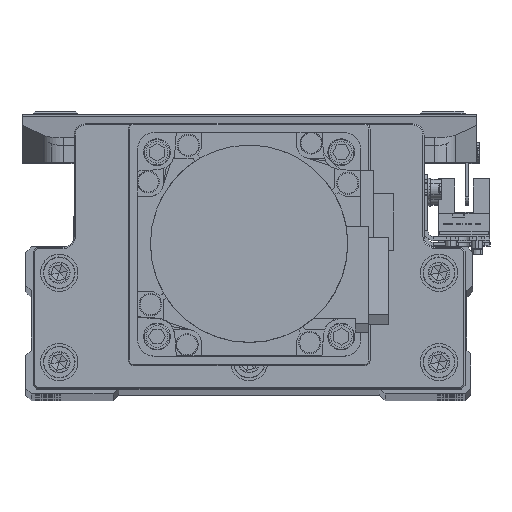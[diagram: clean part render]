
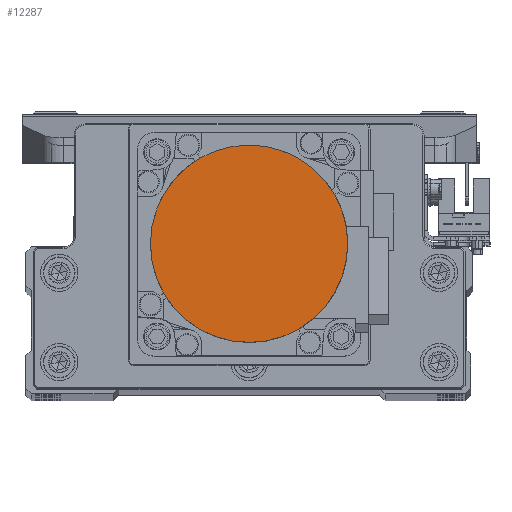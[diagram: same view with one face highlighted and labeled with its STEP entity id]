
A CAD part, top view. The second image highlights one B-rep face of the part: STEP entity #12287.
In plain terms, the highlighted planar face has unit normal (0, 0, 1) as drawn and (0, 0, -1) by its records, which use the part's own axes.
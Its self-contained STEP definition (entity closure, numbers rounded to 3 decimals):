
#2182 = PLANE ( 'NONE',  #33602 ) ;
#2574 = CIRCLE ( 'NONE', #34388, 26.5 ) ;
#5381 = CIRCLE ( 'NONE', #31286, 26.5 ) ;
#6991 = DIRECTION ( 'NONE',  ( 1., 0., 0. ) ) ;
#7311 = DIRECTION ( 'NONE',  ( 0., 0., 1. ) ) ;
#12287 = ADVANCED_FACE ( 'NONE', ( #33931 ), #2182, .F. ) ;
#12548 = ORIENTED_EDGE ( 'NONE', *, *, #20741, .F. ) ;
#16304 = CARTESIAN_POINT ( 'NONE',  ( -26.5, 0., -109.7 ) ) ;
#16348 = CARTESIAN_POINT ( 'NONE',  ( 0., 0., -109.7 ) ) ;
#20351 = VERTEX_POINT ( 'NONE', #21677 ) ;
#20741 = EDGE_CURVE ( 'NONE', #20351, #22637, #5381, .T. ) ;
#21479 = DIRECTION ( 'NONE',  ( -1., 0., 0. ) ) ;
#21677 = CARTESIAN_POINT ( 'NONE',  ( 26.5, 0., -109.7 ) ) ;
#22580 = EDGE_LOOP ( 'NONE', ( #43745, #12548 ) ) ;
#22637 = VERTEX_POINT ( 'NONE', #16304 ) ;
#24619 = CARTESIAN_POINT ( 'NONE',  ( 0., 0., -109.7 ) ) ;
#30451 = DIRECTION ( 'NONE',  ( 0., 0., 1. ) ) ;
#31286 = AXIS2_PLACEMENT_3D ( 'NONE', #24619, #38745, #6991 ) ;
#33602 = AXIS2_PLACEMENT_3D ( 'NONE', #16348, #30451, #44564 ) ;
#33931 = FACE_OUTER_BOUND ( 'NONE', #22580, .T. ) ;
#34388 = AXIS2_PLACEMENT_3D ( 'NONE', #39073, #7311, #21479 ) ;
#37523 = EDGE_CURVE ( 'NONE', #22637, #20351, #2574, .T. ) ;
#38745 = DIRECTION ( 'NONE',  ( 0., 0., 1. ) ) ;
#39073 = CARTESIAN_POINT ( 'NONE',  ( 0., 0., -109.7 ) ) ;
#43745 = ORIENTED_EDGE ( 'NONE', *, *, #37523, .F. ) ;
#44564 = DIRECTION ( 'NONE',  ( 1., 0., 0. ) ) ;
